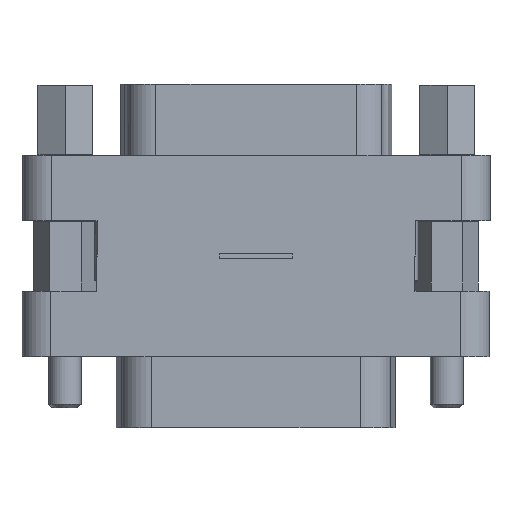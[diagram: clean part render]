
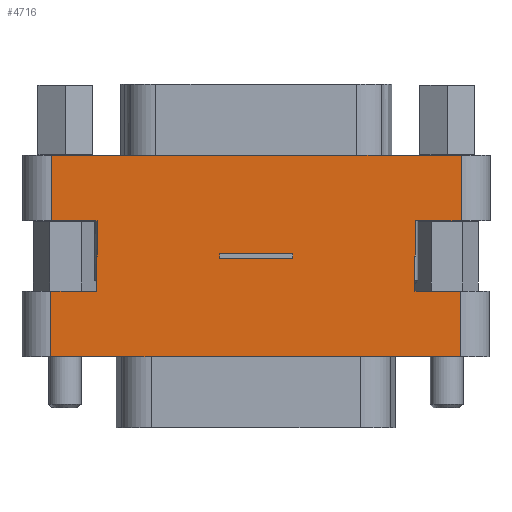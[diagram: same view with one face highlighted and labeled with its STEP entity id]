
A CAD part, front view. The second image highlights one B-rep face of the part: STEP entity #4716.
In plain terms, the highlighted planar face has unit normal (0, -1, 0).
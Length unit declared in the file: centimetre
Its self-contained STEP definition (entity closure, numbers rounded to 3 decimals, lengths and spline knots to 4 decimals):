
#656=VERTEX_POINT('',#6364);
#657=VERTEX_POINT('',#6366);
#658=VERTEX_POINT('',#6370);
#659=VERTEX_POINT('',#6374);
#688=VERTEX_POINT('',#6454);
#784=VERTEX_POINT('',#6849);
#787=VERTEX_POINT('',#6853);
#799=VERTEX_POINT('',#6884);
#802=VERTEX_POINT('',#6890);
#881=VERTEX_POINT('',#7347);
#882=VERTEX_POINT('',#7349);
#896=VERTEX_POINT('',#7381);
#906=VERTEX_POINT('',#7402);
#907=VERTEX_POINT('',#7405);
#908=VERTEX_POINT('',#7407);
#913=VERTEX_POINT('',#7418);
#916=VERTEX_POINT('',#7454);
#917=VERTEX_POINT('',#7457);
#957=VERTEX_POINT('',#7570);
#958=VERTEX_POINT('',#7572);
#969=VERTEX_POINT('',#7599);
#979=VERTEX_POINT('',#7636);
#980=VERTEX_POINT('',#7639);
#981=VERTEX_POINT('',#7641);
#1047=VECTOR('',#5076,1.);
#1050=VECTOR('',#5080,1.);
#1052=VECTOR('',#5083,1.);
#1086=VECTOR('',#5141,1.);
#1189=VECTOR('',#5438,1.);
#1192=VECTOR('',#5441,1.);
#1201=VECTOR('',#5709,1.);
#1211=VECTOR('',#5735,1.);
#1219=VECTOR('',#5748,1.);
#1220=VECTOR('',#5750,1.);
#1225=VECTOR('',#5759,1.);
#1227=VECTOR('',#5763,1.);
#1232=VECTOR('',#5774,1.);
#1244=VECTOR('',#5800,1.);
#1252=VECTOR('',#5940,1.);
#1260=VECTOR('',#5965,1.);
#1270=VECTOR('',#5993,1.);
#1272=VECTOR('',#5998,1.);
#1273=VECTOR('',#5999,1.);
#1274=VECTOR('',#6000,1.);
#1275=VECTOR('',#6001,1.);
#1276=VECTOR('',#6002,1.);
#1347=LINE('',#6365,#1047);
#1350=LINE('',#6371,#1050);
#1352=LINE('',#6375,#1052);
#1386=LINE('',#6453,#1086);
#1489=LINE('',#6885,#1189);
#1492=LINE('',#6891,#1192);
#1501=LINE('',#7348,#1201);
#1511=LINE('',#7382,#1211);
#1519=LINE('',#7403,#1219);
#1520=LINE('',#7406,#1220);
#1525=LINE('',#7419,#1225);
#1527=LINE('',#7422,#1227);
#1532=LINE('',#7431,#1232);
#1544=LINE('',#7455,#1244);
#1552=LINE('',#7571,#1252);
#1560=LINE('',#7600,#1260);
#1570=LINE('',#7630,#1270);
#1572=LINE('',#7635,#1272);
#1573=LINE('',#7637,#1273);
#1574=LINE('',#7638,#1274);
#1575=LINE('',#7640,#1275);
#1576=LINE('',#7642,#1276);
#1743=EDGE_CURVE('',#657,#656,#1347,.T.);
#1746=EDGE_CURVE('',#656,#658,#1350,.T.);
#1748=EDGE_CURVE('',#658,#659,#1352,.T.);
#1789=EDGE_CURVE('',#688,#657,#1386,.T.);
#1933=EDGE_CURVE('',#784,#787,#1350,.T.);
#1950=EDGE_CURVE('',#787,#799,#1489,.T.);
#1957=EDGE_CURVE('',#659,#802,#1492,.T.);
#2037=EDGE_CURVE('',#881,#882,#1501,.T.);
#2054=EDGE_CURVE('',#802,#896,#1511,.T.);
#2068=EDGE_CURVE('',#799,#906,#1519,.T.);
#2070=EDGE_CURVE('',#908,#907,#1520,.T.);
#2077=EDGE_CURVE('',#907,#913,#1525,.T.);
#2079=EDGE_CURVE('',#882,#906,#1527,.T.);
#2084=EDGE_CURVE('',#881,#908,#1532,.T.);
#2098=EDGE_CURVE('',#913,#916,#1544,.T.);
#2100=EDGE_CURVE('',#896,#917,#1544,.T.);
#2143=EDGE_CURVE('',#957,#958,#1552,.T.);
#2158=EDGE_CURVE('',#916,#969,#1560,.T.);
#2175=EDGE_CURVE('',#917,#688,#1570,.T.);
#2178=EDGE_CURVE('',#969,#979,#1572,.T.);
#2179=EDGE_CURVE('',#958,#979,#1573,.T.);
#2180=EDGE_CURVE('',#957,#980,#1574,.T.);
#2181=EDGE_CURVE('',#980,#981,#1575,.T.);
#2182=EDGE_CURVE('',#981,#784,#1576,.T.);
#3310=ORIENTED_EDGE('',*,*,#2077,.T.);
#3311=ORIENTED_EDGE('',*,*,#2098,.T.);
#3312=ORIENTED_EDGE('',*,*,#2158,.T.);
#3313=ORIENTED_EDGE('',*,*,#2178,.T.);
#3314=ORIENTED_EDGE('',*,*,#2179,.F.);
#3315=ORIENTED_EDGE('',*,*,#2143,.F.);
#3316=ORIENTED_EDGE('',*,*,#2180,.T.);
#3317=ORIENTED_EDGE('',*,*,#2181,.T.);
#3318=ORIENTED_EDGE('',*,*,#2182,.T.);
#3319=ORIENTED_EDGE('',*,*,#1933,.T.);
#3320=ORIENTED_EDGE('',*,*,#1950,.T.);
#3321=ORIENTED_EDGE('',*,*,#2068,.T.);
#3322=ORIENTED_EDGE('',*,*,#2079,.F.);
#3323=ORIENTED_EDGE('',*,*,#2037,.F.);
#3324=ORIENTED_EDGE('',*,*,#2084,.T.);
#3325=ORIENTED_EDGE('',*,*,#2070,.T.);
#3326=ORIENTED_EDGE('',*,*,#2175,.T.);
#3327=ORIENTED_EDGE('',*,*,#1789,.T.);
#3328=ORIENTED_EDGE('',*,*,#1743,.T.);
#3329=ORIENTED_EDGE('',*,*,#1746,.T.);
#3330=ORIENTED_EDGE('',*,*,#1748,.T.);
#3331=ORIENTED_EDGE('',*,*,#1957,.T.);
#3332=ORIENTED_EDGE('',*,*,#2054,.T.);
#3333=ORIENTED_EDGE('',*,*,#2100,.T.);
#3904=EDGE_LOOP('',(#3310,#3311,#3312,#3313,#3314,#3315,#3316,#3317,#3318,
#3319,#3320,#3321,#3322,#3323,#3324,#3325));
#3905=EDGE_LOOP('',(#3326,#3327,#3328,#3329,#3330,#3331,#3332,#3333));
#4396=FACE_BOUND('',#3904,.T.);
#4397=FACE_BOUND('',#3905,.T.);
#4716=ADVANCED_FACE('',(#4396,#4397),#4827,.T.);
#4827=PLANE('',#8167);
#5076=DIRECTION('',(0.,0.,-1.));
#5080=DIRECTION('',(-1.,0.,0.));
#5083=DIRECTION('',(0.,0.,-1.));
#5141=DIRECTION('',(1.,0.,0.));
#5438=DIRECTION('',(0.,0.,-1.));
#5441=DIRECTION('',(-1.,0.,0.));
#5709=DIRECTION('',(-1.,0.,0.));
#5735=DIRECTION('',(0.,0.,1.));
#5748=DIRECTION('',(-1.,0.,0.));
#5750=DIRECTION('',(-1.,0.,0.));
#5759=DIRECTION('',(0.,0.,1.));
#5763=DIRECTION('',(0.,0.,1.));
#5774=DIRECTION('',(0.,0.,1.));
#5800=DIRECTION('',(1.,0.,0.));
#5940=DIRECTION('',(1.,0.,0.));
#5965=DIRECTION('',(0.,0.,1.));
#5993=DIRECTION('',(0.,0.,1.));
#5997=DIRECTION('',(0.,-1.,0.));
#5998=DIRECTION('',(1.,0.,0.));
#5999=DIRECTION('',(0.,0.,-1.));
#6000=DIRECTION('',(0.,0.,-1.));
#6001=DIRECTION('',(1.,0.,0.));
#6002=DIRECTION('',(0.,0.,-1.));
#6364=CARTESIAN_POINT('',(0.3175,-0.4699,-0.8763));
#6365=CARTESIAN_POINT('',(0.3175,-0.4699,-0.4382));
#6366=CARTESIAN_POINT('',(0.3175,-0.4699,-0.8509));
#6370=CARTESIAN_POINT('',(0.3132,-0.4699,-0.8763));
#6371=CARTESIAN_POINT('',(1.7753,-0.4699,-0.8763));
#6374=CARTESIAN_POINT('',(0.3132,-0.4699,-0.9017));
#6375=CARTESIAN_POINT('',(0.3132,-0.4699,-1.3145));
#6453=CARTESIAN_POINT('',(-0.012,-0.4699,-0.8509));
#6454=CARTESIAN_POINT('',(-0.3175,-0.4699,-0.8509));
#6849=CARTESIAN_POINT('',(-1.3843,-0.4699,-0.8763));
#6853=CARTESIAN_POINT('',(-1.3886,-0.4699,-0.8763));
#6884=CARTESIAN_POINT('',(-1.3886,-0.4699,-1.1811));
#6885=CARTESIAN_POINT('',(-1.3886,-0.4699,-1.3145));
#6890=CARTESIAN_POINT('',(-0.3218,-0.4699,-0.9017));
#6891=CARTESIAN_POINT('',(0.0077,-0.4699,-0.9017));
#7347=CARTESIAN_POINT('',(1.7753,-0.4699,-1.7526));
#7348=CARTESIAN_POINT('',(1.7753,-0.4699,-1.7526));
#7349=CARTESIAN_POINT('',(-1.7854,-0.4699,-1.7526));
#7381=CARTESIAN_POINT('',(-0.3218,-0.4699,-0.8763));
#7382=CARTESIAN_POINT('',(-0.3218,-0.4699,-1.3145));
#7402=CARTESIAN_POINT('',(-1.7854,-0.4699,-1.1811));
#7403=CARTESIAN_POINT('',(-0.9659,-0.4699,-1.1811));
#7405=CARTESIAN_POINT('',(1.38,-0.4699,-1.1811));
#7406=CARTESIAN_POINT('',(0.9843,-0.4699,-1.1811));
#7407=CARTESIAN_POINT('',(1.7753,-0.4699,-1.1811));
#7418=CARTESIAN_POINT('',(1.38,-0.4699,-0.8763));
#7419=CARTESIAN_POINT('',(1.38,-0.4699,-1.3145));
#7422=CARTESIAN_POINT('',(-1.7854,-0.4699,-1.7526));
#7431=CARTESIAN_POINT('',(1.7753,-0.4699,-1.7526));
#7454=CARTESIAN_POINT('',(1.3843,-0.4699,-0.8763));
#7455=CARTESIAN_POINT('',(-1.7796,-0.4699,-0.8763));
#7457=CARTESIAN_POINT('',(-0.3175,-0.4699,-0.8763));
#7570=CARTESIAN_POINT('',(-1.7796,-0.4699,0.));
#7571=CARTESIAN_POINT('',(-1.7796,-0.4699,0.));
#7572=CARTESIAN_POINT('',(1.7811,-0.4699,0.));
#7599=CARTESIAN_POINT('',(1.3843,-0.4699,-0.5715));
#7600=CARTESIAN_POINT('',(1.3843,-0.4699,-0.4382));
#7630=CARTESIAN_POINT('',(-0.3175,-0.4699,-0.4382));
#7634=CARTESIAN_POINT('',(0.0008,-0.4699,0.));
#7635=CARTESIAN_POINT('',(0.9615,-0.4699,-0.5715));
#7636=CARTESIAN_POINT('',(1.7811,-0.4699,-0.5715));
#7637=CARTESIAN_POINT('',(1.7811,-0.4699,0.));
#7638=CARTESIAN_POINT('',(-1.7796,-0.4699,0.));
#7639=CARTESIAN_POINT('',(-1.7796,-0.4699,-0.5715));
#7640=CARTESIAN_POINT('',(-0.9886,-0.4699,-0.5715));
#7641=CARTESIAN_POINT('',(-1.3843,-0.4699,-0.5715));
#7642=CARTESIAN_POINT('',(-1.3843,-0.4699,-0.4382));
#8167=AXIS2_PLACEMENT_3D('',#7634,#5997,$);
